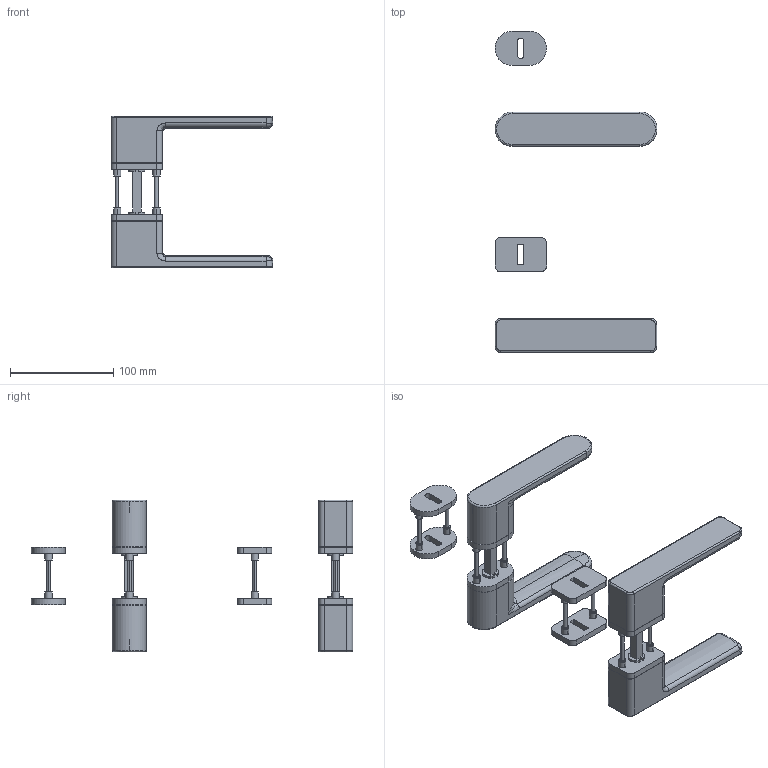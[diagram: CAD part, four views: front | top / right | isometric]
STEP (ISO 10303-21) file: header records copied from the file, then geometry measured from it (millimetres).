
FILE_DESCRIPTION (( 'STEP AP203' ), '1' );
FILE_NAME ('MPK-PerfectaRT-Impressa-OR-3D-data for render.STEP', '2026-03-23T14:43:32', ( '' ), ( '' ), 'SwSTEP 2.0', 'SolidWorks 2025', '' );
FILE_SCHEMA (( 'CONFIG_CONTROL_DESIGN' ));
Length unit declared in the file: millimetre
Products named in the file (1): MPK-PerfectaRT-Impressa-OR-3D-data for render
Bounding box: 157 x 311.37 x 147.2 mm (x, y, z)
Volume: 479530.4 mm3; surface area: 132055.9 mm2
Topology: 24 solids, 24 shells, 544 faces, 1289 edges, 838 vertices
Faces by surface type: plane 223, cylinder 217, bspline 58, torus 46
Entity records: 19397 total; most frequent: CARTESIAN_POINT 6739, DIRECTION 2647, ORIENTED_EDGE 2578, EDGE_CURVE 1289, AXIS2_PLACEMENT_3D 1011, VERTEX_POINT 838, VECTOR 625, LINE 625
